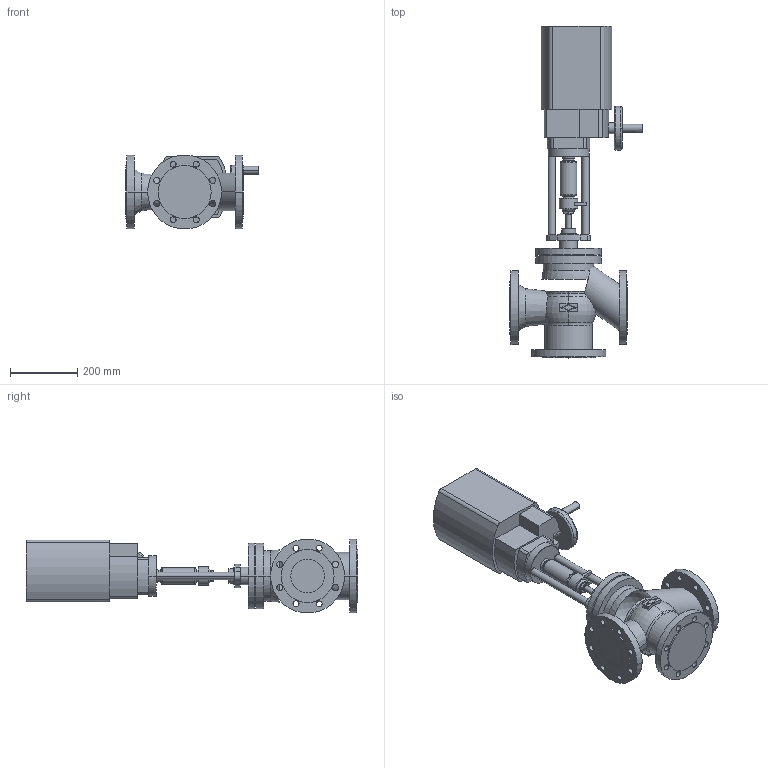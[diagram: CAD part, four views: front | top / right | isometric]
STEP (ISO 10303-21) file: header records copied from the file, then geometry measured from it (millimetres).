
FILE_DESCRIPTION( ( '' ), '1' );
FILE_NAME( 'F:/DE-SHS/TB/OR/04-Sonstiges/daten/files_3d/450-PREMIO-Plus-2G/c000006523.stp', '2017-02-22T12:51:14', ( '' ), ( '' ), ' ', ' ', ' ' );
FILE_SCHEMA( ( 'CONFIG_CONTROL_DESIGN' ) );
Length unit declared in the file: millimetre
Products named in the file (2): 1; 2
Bounding box: 394.05 x 988 x 220 mm (x, y, z)
Volume: 20661645.9 mm3; surface area: 1029891.2 mm2
Topology: 2 solids, 2 shells, 264 faces, 679 edges, 443 vertices
Faces by surface type: cylinder 130, plane 95, torus 25, cone 12, sphere 2
Entity records: 8756 total; most frequent: CARTESIAN_POINT 1848, DIRECTION 1552, ORIENTED_EDGE 1350, EDGE_CURVE 675, AXIS2_PLACEMENT_3D 639, VERTEX_POINT 443, CIRCLE 371, EDGE_LOOP 340
